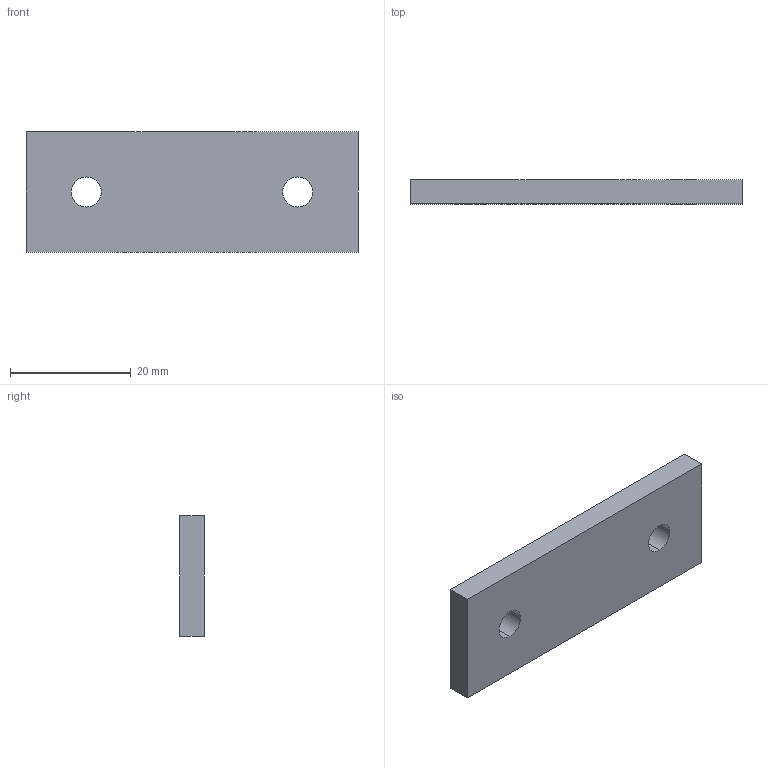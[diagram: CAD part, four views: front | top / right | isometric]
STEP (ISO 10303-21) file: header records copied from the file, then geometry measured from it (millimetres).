
FILE_DESCRIPTION (( 'STEP AP214' ), '1' );
FILE_NAME ('FBCS-20x50.STEP', '2011-09-19T06:44:54', ( '.' ), ( '' ), 'SwSTEP 2.0', 'SolidWorks 2010', '' );
FILE_SCHEMA (( 'AUTOMOTIVE_DESIGN' ));
Length unit declared in the file: millimetre
Products named in the file (1): FBCS-20x50
Bounding box: 55 x 4 x 20 mm (x, y, z)
Volume: 4242.9 mm3; surface area: 2847.1 mm2
Topology: 1 solids, 1 shells, 10 faces, 24 edges, 16 vertices
Faces by surface type: plane 6, cylinder 4
Entity records: 382 total; most frequent: DIRECTION 54, CARTESIAN_POINT 51, ORIENTED_EDGE 48, EDGE_CURVE 24, AXIS2_PLACEMENT_3D 19, VERTEX_POINT 16, LINE 16, VECTOR 16
